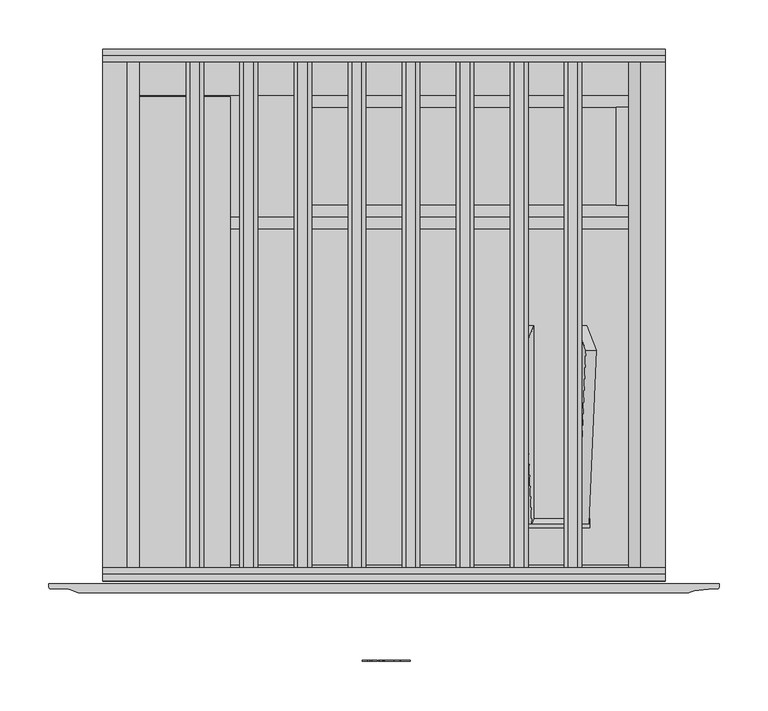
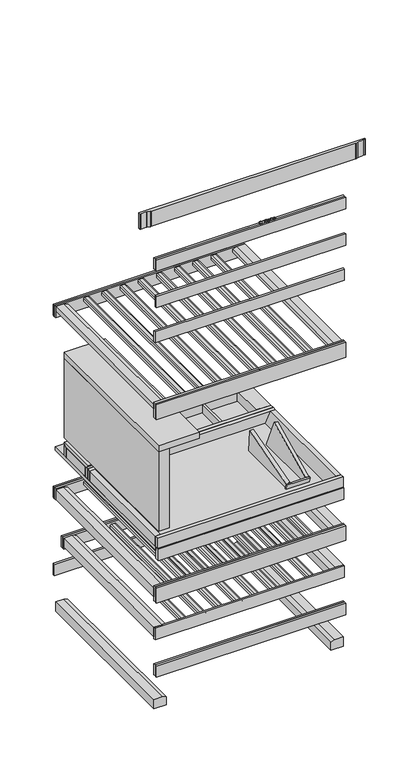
"""IFC4 building model written with IfcOpenShell, lengths in millimetres: proxy geometry, 12588220_CN_KWT4999F_OBSW : 39499962_CN_12588220_KWT4999F_OBSW."""

from ifc_helpers import new_model, si_unit, point, frame, frame_2d, origin, place, context, project, spatial, polyline, circle_curve, ellipse_curve, trimmed, segment, composite_curve, outline, extrude, source, transform, mapped, element, save
from ifc_brep_helpers import plane_surface, cylinder_surface, revolved_surface, extruded_surface, advanced_brep


def specialty_equipment_c9b6d5f7(model_context):
    return source(origin(), model_context, "Body", "SolidModel", [
        advanced_brep(
        [(21.288016, -779.5, 1910.896), (21.288016, -779.5, 1911.704), (26.640016, -779.5, 1911.704), (17.328016, -779.5, 1911.704), (19.528016, -779.5, 1909.0), (26.504016, -779.5, 1910.896), (24.088016, -779.5, 1910.896), (22.184016, -779.5, 1910.0), (21.288016, -779.5, 1912.728), (21.288016, -779.5, 1913.6), (22.656016, -779.5, 1913.6), (22.656016, -779.5, 1912.728), (21.288016, -778.5, 1910.896), (22.184016, -778.5, 1910.0), (24.088016, -778.5, 1910.896), (26.504016, -778.5, 1910.896), (19.528016, -778.5, 1909.0), (17.328016, -778.5, 1911.704), (26.640016, -778.5, 1911.704), (21.288016, -778.5, 1911.704), (21.288016, -778.5, 1912.728), (22.656016, -778.5, 1912.728), (22.656016, -778.5, 1913.6), (21.288016, -778.5, 1913.6)],
        [
            (0, 1),
            (1, 2),
            (2, 3, ellipse_curve(frame((21.984016, -779.5, 1911.704), z_axis=(0.0, -1.0, 0.0), x_axis=(-1.0, 0.0, 0.0)), 4.656, 3.848)),
            (3, 4, circle_curve(frame((20.4240596, -779.5, 1911.976), z_axis=(0.0, -1.0, 0.0), x_axis=(0.0, 0.0, -1.0)), 3.1079688)),
            (4, 5, circle_curve(frame((21.8908096, -779.5, 1914.088), z_axis=(0.0, -1.0, 0.0), x_axis=(0.0, 0.0, -1.0)), 5.6098607)),
            (5, 6),
            (6, 7, circle_curve(frame((22.5750748, -779.5, 1911.64), z_axis=(0.0, 1.0, 0.0), x_axis=(0.0, 0.0, -1.0)), 1.6859795)),
            (7, 0, circle_curve(frame((22.184016, -779.5, 1910.896), z_axis=(0.0, 1.0, 0.0), x_axis=(0.0, 0.0, -1.0)), 0.896)),
            (8, 9),
            (9, 10, circle_curve(frame((21.972016, -779.5, 1913.6), z_axis=(0.0, 1.0, 0.0), x_axis=(0.0, 0.0, -1.0)), 0.684)),
            (10, 11),
            (11, 8),
            (12, 13, circle_curve(frame((22.184016, -778.5, 1910.896), z_axis=(0.0, -1.0, 0.0), x_axis=(0.0, 0.0, -1.0)), 0.896)),
            (13, 14, circle_curve(frame((22.5750748, -778.5, 1911.64), z_axis=(0.0, -1.0, 0.0), x_axis=(0.0, 0.0, -1.0)), 1.6859795)),
            (14, 15),
            (15, 16, circle_curve(frame((21.8908096, -778.5, 1914.088), z_axis=(0.0, 1.0, 0.0), x_axis=(0.0, 0.0, -1.0)), 5.6098607)),
            (16, 17, circle_curve(frame((20.4240596, -778.5, 1911.976), z_axis=(0.0, 1.0, 0.0), x_axis=(0.0, 0.0, -1.0)), 3.1079688)),
            (17, 18, ellipse_curve(frame((21.984016, -778.5, 1911.704), z_axis=(0.0, 1.0, 0.0), x_axis=(-1.0, 0.0, 0.0)), 4.656, 3.848)),
            (18, 19),
            (19, 12),
            (20, 21),
            (21, 22),
            (22, 23, circle_curve(frame((21.972016, -778.5, 1913.6), z_axis=(0.0, -1.0, 0.0), x_axis=(0.0, 0.0, -1.0)), 0.684)),
            (23, 20),
            (0, 12),
            (19, 1),
            (18, 2),
            (5, 15),
            (14, 6),
            (17, 3),
            (13, 7),
            (16, 4),
            (8, 20),
            (23, 9),
            (22, 10),
            (21, 11),
        ],
        [
            plane_surface(frame((21.288016, -779.5, 1911.704), z_axis=(0.0, -1.0, 0.0), x_axis=(0.0, 0.0, 1.0))),
            plane_surface(frame((21.288016, -778.5, 1911.704), z_axis=(0.0, 1.0, 0.0), x_axis=(0.0, 0.0, -1.0))),
            plane_surface(frame((21.288016, -779.5, 1910.896), z_axis=(1.0, 0.0, 0.0), x_axis=(0.0, 1.0, 0.0))),
            plane_surface(frame((21.288016, -779.5, 1911.704), z_axis=(0.0, 0.0, -1.0), x_axis=(0.0, 1.0, 0.0))),
            plane_surface(frame((26.504016, -779.5, 1910.896), z_axis=(0.0, 0.0, 1.0), x_axis=(0.0, 1.0, 0.0))),
            extruded_surface(trimmed(ellipse_curve(frame((21.984016, -777.5, 1911.704), z_axis=(0.0, -1.0, 0.0), x_axis=(-1.0, 0.0, 0.0)), 4.656, 3.848), [point((26.640016, -777.5, 1911.704))], [point((17.328016, -777.5, 1911.704))], True, "CARTESIAN"), (0.0, -1.0, 0.0), 1.0),
            revolved_surface(polyline([(22.5750748, -778.5, 1909.9540205), (22.5750748, -779.5, 1909.9540205)]), (22.5750748, -778.5, 1911.64), (0.0, 1.0, 0.0)),
            revolved_surface(polyline([(22.184016, -778.5, 1910.0), (22.184016, -779.5, 1910.0)]), (22.184016, -778.5, 1910.896), (0.0, 1.0, 0.0)),
            cylinder_surface(frame((20.4240596, -778.5, 1911.976), z_axis=(0.0, -1.0, 0.0), x_axis=(0.0, 0.0, -1.0)), 3.1079688),
            cylinder_surface(frame((21.8908096, -778.5, 1914.088), z_axis=(0.0, -1.0, 0.0), x_axis=(0.0, 0.0, -1.0)), 5.6098607),
            plane_surface(frame((21.288016, -779.5, 1912.728), z_axis=(1.0, 0.0, 0.0), x_axis=(0.0, 1.0, 0.0))),
            revolved_surface(polyline([(21.972016, -778.5, 1912.916), (21.972016, -779.5, 1912.916)]), (21.972016, -778.5, 1913.6), (0.0, 1.0, 0.0)),
            plane_surface(frame((22.656016, -779.5, 1913.6), z_axis=(-1.0, 0.0, 0.0), x_axis=(0.0, 1.0, 0.0))),
            plane_surface(frame((22.656016, -779.5, 1912.728), z_axis=(0.0, 0.0, 1.0), x_axis=(0.0, 1.0, 0.0))),
        ],
        [
            (0, [[1, 2, 3, 4, 5, 6, 7, 8], [9, 10, 11, 12]]),
            (1, [[13, 14, 15, 16, 17, 18, 19, 20], [21, 22, 23, 24]]),
            (2, [[-1, 25, -20, 26]]),
            (3, [[-2, -26, -19, 27]]),
            (4, [[-6, 28, -15, 29]]),
            (5, [[-3, -27, -18, 30]]),
            (6, [[-7, -29, -14, 31]]),
            (7, [[-8, -31, -13, -25]]),
            (8, [[-4, -30, -17, 32]]),
            (9, [[-5, -32, -16, -28]]),
            (10, [[-9, 33, -24, 34]]),
            (11, [[-10, -34, -23, 35]]),
            (12, [[-11, -35, -22, 36]]),
            (13, [[-12, -36, -21, -33]]),
        ],
    ),
        advanced_brep(
        [(4.592016, -779.5, 1910.896), (4.592016, -779.5, 1911.704), (9.944016, -779.5, 1911.704), (0.632016, -779.5, 1911.704), (2.832016, -779.5, 1909.0), (9.808016, -779.5, 1910.896), (7.392016, -779.5, 1910.896), (5.488016, -779.5, 1910.0), (4.592016, -779.5, 1912.728), (4.592016, -779.5, 1913.6), (5.960016, -779.5, 1913.6), (5.960016, -779.5, 1912.728), (4.592016, -778.5, 1910.896), (5.488016, -778.5, 1910.0), (7.392016, -778.5, 1910.896), (9.808016, -778.5, 1910.896), (2.832016, -778.5, 1909.0), (0.632016, -778.5, 1911.704), (9.944016, -778.5, 1911.704), (4.592016, -778.5, 1911.704), (4.592016, -778.5, 1912.728), (5.960016, -778.5, 1912.728), (5.960016, -778.5, 1913.6), (4.592016, -778.5, 1913.6)],
        [
            (0, 1),
            (1, 2),
            (2, 3, ellipse_curve(frame((5.288016, -779.5, 1911.704), z_axis=(0.0, -1.0, 0.0), x_axis=(-1.0, 0.0, 0.0)), 4.656, 3.848)),
            (3, 4, circle_curve(frame((3.7280596, -779.5, 1911.976), z_axis=(0.0, -1.0, 0.0), x_axis=(0.0, 0.0, -1.0)), 3.1079688)),
            (4, 5, circle_curve(frame((5.1948096, -779.5, 1914.088), z_axis=(0.0, -1.0, 0.0), x_axis=(0.0, 0.0, -1.0)), 5.6098607)),
            (5, 6),
            (6, 7, circle_curve(frame((5.8790748, -779.5, 1911.64), z_axis=(0.0, 1.0, 0.0), x_axis=(0.0, 0.0, -1.0)), 1.6859795)),
            (7, 0, circle_curve(frame((5.488016, -779.5, 1910.896), z_axis=(0.0, 1.0, 0.0), x_axis=(0.0, 0.0, -1.0)), 0.896)),
            (8, 9),
            (9, 10, circle_curve(frame((5.276016, -779.5, 1913.6), z_axis=(0.0, 1.0, 0.0), x_axis=(0.0, 0.0, -1.0)), 0.684)),
            (10, 11),
            (11, 8),
            (12, 13, circle_curve(frame((5.488016, -778.5, 1910.896), z_axis=(0.0, -1.0, 0.0), x_axis=(0.0, 0.0, -1.0)), 0.896)),
            (13, 14, circle_curve(frame((5.8790748, -778.5, 1911.64), z_axis=(0.0, -1.0, 0.0), x_axis=(0.0, 0.0, -1.0)), 1.6859795)),
            (14, 15),
            (15, 16, circle_curve(frame((5.1948096, -778.5, 1914.088), z_axis=(0.0, 1.0, 0.0), x_axis=(0.0, 0.0, -1.0)), 5.6098607)),
            (16, 17, circle_curve(frame((3.7280596, -778.5, 1911.976), z_axis=(0.0, 1.0, 0.0), x_axis=(0.0, 0.0, -1.0)), 3.1079688)),
            (17, 18, ellipse_curve(frame((5.288016, -778.5, 1911.704), z_axis=(0.0, 1.0, 0.0), x_axis=(-1.0, 0.0, 0.0)), 4.656, 3.848)),
            (18, 19),
            (19, 12),
            (20, 21),
            (21, 22),
            (22, 23, circle_curve(frame((5.276016, -778.5, 1913.6), z_axis=(0.0, -1.0, 0.0), x_axis=(0.0, 0.0, -1.0)), 0.684)),
            (23, 20),
            (0, 12),
            (19, 1),
            (18, 2),
            (5, 15),
            (14, 6),
            (17, 3),
            (13, 7),
            (16, 4),
            (8, 20),
            (23, 9),
            (22, 10),
            (21, 11),
        ],
        [
            plane_surface(frame((4.592016, -779.5, 1911.704), z_axis=(0.0, -1.0, 0.0), x_axis=(0.0, 0.0, 1.0))),
            plane_surface(frame((4.592016, -778.5, 1911.704), z_axis=(0.0, 1.0, 0.0), x_axis=(0.0, 0.0, -1.0))),
            plane_surface(frame((4.592016, -779.5, 1910.896), z_axis=(1.0, 0.0, 0.0), x_axis=(0.0, 1.0, 0.0))),
            plane_surface(frame((4.592016, -779.5, 1911.704), z_axis=(0.0, 0.0, -1.0), x_axis=(0.0, 1.0, 0.0))),
            plane_surface(frame((9.808016, -779.5, 1910.896), z_axis=(0.0, 0.0, 1.0), x_axis=(0.0, 1.0, 0.0))),
            extruded_surface(trimmed(ellipse_curve(frame((5.288016, -777.5, 1911.704), z_axis=(0.0, -1.0, 0.0), x_axis=(-1.0, 0.0, 0.0)), 4.656, 3.848), [point((9.944016, -777.5, 1911.704))], [point((0.632016, -777.5, 1911.704))], True, "CARTESIAN"), (0.0, -1.0, 0.0), 1.0),
            revolved_surface(polyline([(5.8790748, -778.5, 1909.9540205), (5.8790748, -779.5, 1909.9540205)]), (5.8790748, -778.5, 1911.64), (0.0, 1.0, 0.0)),
            revolved_surface(polyline([(5.488016, -778.5, 1910.0), (5.488016, -779.5, 1910.0)]), (5.488016, -778.5, 1910.896), (0.0, 1.0, 0.0)),
            cylinder_surface(frame((3.7280596, -778.5, 1911.976), z_axis=(0.0, -1.0, 0.0), x_axis=(0.0, 0.0, -1.0)), 3.1079688),
            cylinder_surface(frame((5.1948096, -778.5, 1914.088), z_axis=(0.0, -1.0, 0.0), x_axis=(0.0, 0.0, -1.0)), 5.6098607),
            plane_surface(frame((4.592016, -779.5, 1912.728), z_axis=(1.0, 0.0, 0.0), x_axis=(0.0, 1.0, 0.0))),
            revolved_surface(polyline([(5.276016, -778.5, 1912.916), (5.276016, -779.5, 1912.916)]), (5.276016, -778.5, 1913.6), (0.0, 1.0, 0.0)),
            plane_surface(frame((5.960016, -779.5, 1913.6), z_axis=(-1.0, 0.0, 0.0), x_axis=(0.0, 1.0, 0.0))),
            plane_surface(frame((5.960016, -779.5, 1912.728), z_axis=(0.0, 0.0, 1.0), x_axis=(0.0, 1.0, 0.0))),
        ],
        [
            (0, [[1, 2, 3, 4, 5, 6, 7, 8], [9, 10, 11, 12]]),
            (1, [[13, 14, 15, 16, 17, 18, 19, 20], [21, 22, 23, 24]]),
            (2, [[-1, 25, -20, 26]]),
            (3, [[-2, -26, -19, 27]]),
            (4, [[-6, 28, -15, 29]]),
            (5, [[-3, -27, -18, 30]]),
            (6, [[-7, -29, -14, 31]]),
            (7, [[-8, -31, -13, -25]]),
            (8, [[-4, -30, -17, 32]]),
            (9, [[-5, -32, -16, -28]]),
            (10, [[-9, 33, -24, 34]]),
            (11, [[-10, -34, -23, 35]]),
            (12, [[-11, -35, -22, 36]]),
            (13, [[-12, -36, -21, -33]]),
        ],
    ),
        extrude(outline(polyline([(1916.528, -4.151984), (1915.232, -3.543984), (1916.496, -0.831984), (1917.792, -1.431984), (1916.528, -4.151984)])), frame((0.0, -779.5, 0.0), z_axis=(0.0, 1.0, 0.0), x_axis=(0.0, 0.0, 1.0)), (0.0, 0.0, 1.0), 1.0),
        extrude(outline(polyline([(1915.056, -6.127984), (1913.624, -6.127984), (1913.624, -5.175984), (1910.344, -5.175984), (1910.344, -6.127984), (1909.0, -6.127984), (1909.0, 0.184016), (1910.344, 0.184016), (1910.344, -0.743984), (1915.056, -0.743984), (1915.056, -6.127984)])), frame((0.0, -779.5, 0.0), z_axis=(0.0, 1.0, 0.0), x_axis=(0.0, 0.0, 1.0)), (0.0, 0.0, 1.0), 1.0),
        extrude(outline(polyline([(1915.696, 10.392016), (1915.696, 11.352016), (1910.344, 11.352016), (1910.344, 10.392016), (1909.0, 10.392016), (1909.0, 16.880016), (1910.344, 16.880016), (1910.344, 15.896016), (1917.0, 15.896016), (1917.0, 10.392016), (1915.696, 10.392016)])), frame((0.0, -779.5, 0.0), z_axis=(0.0, 1.0, 0.0), x_axis=(0.0, 0.0, 1.0)), (0.0, 0.0, 1.0), 1.0),
        extrude(outline(polyline([(1915.696, -22.071984), (1915.696, -21.103984), (1910.344, -21.103984), (1910.344, -22.071984), (1909.0, -22.071984), (1909.0, -18.551984), (1910.344, -18.551984), (1910.344, -19.511984), (1913.7471247, -19.511984), (1909.0, -15.935984), (1913.8152223, -12.343984), (1910.344, -12.343984), (1910.344, -13.327984), (1909.0, -13.327984), (1909.0, -6.943984), (1910.344, -6.943984), (1910.344, -7.959984), (1915.696, -7.959984), (1915.696, -6.943984), (1917.0, -6.943984), (1917.0, -11.815984), (1914.0, -14.151984), (1917.0, -16.495984), (1917.0, -22.071984), (1915.696, -22.071984)])), frame((0.0, -779.5, 0.0), z_axis=(0.0, 1.0, 0.0), x_axis=(0.0, 0.0, 1.0)), (0.0, 0.0, 1.0), 1.0),
        extrude(outline(composite_curve([segment(polyline([(310.3303025, -709.4869385), (-310.3238209, -709.4869385)]), True, "CONTINUOUS"), segment(trimmed(circle_curve(frame_2d((-310.44591, -703.5630875)), 5.9251089), [point((-310.3238209, -709.4869385))], [point((-312.4708007, -709.1314566))], False, "CARTESIAN"), True, "CONTINUOUS"), segment(polyline([(-312.4708007, -709.1314566), (-321.5667859, -705.8237776)]), True, "CONTINUOUS"), segment(trimmed(circle_curve(frame_2d((-323.2756141, -710.5229876)), 5.0002667), [point((-321.5667859, -705.8237776))], [point((-323.2756141, -705.5227208))], True, "CARTESIAN"), True, "CONTINUOUS"), segment(polyline([(-323.2756141, -705.5227208), (-340.5040257, -705.5227208)]), True, "CONTINUOUS"), segment(trimmed(circle_curve(frame_2d((-340.5040257, -703.5174705)), 2.0052503), [point((-340.5040257, -705.5227208))], [point((-342.509276, -703.5174705))], False, "CARTESIAN"), True, "CONTINUOUS"), segment(polyline([(-342.509276, -703.5174705), (-342.509276, -700.0), (342.509276, -700.0), (342.509276, -703.5756553)]), True, "CONTINUOUS"), segment(trimmed(circle_curve(frame_2d((340.5363621, -703.5756553)), 1.9729139), [point((342.509276, -703.5756553))], [point((340.3912088, -705.5432223))], False, "CARTESIAN"), True, "CONTINUOUS"), segment(polyline([(340.3912088, -705.5432223), (335.9802856, -705.2942743), (317.1795756, -707.380628), (312.3907072, -709.1236335)]), True, "CONTINUOUS"), segment(trimmed(circle_curve(frame_2d((310.3303025, -703.4627182)), 6.0242203), [point((312.3907072, -709.1236335))], [point((310.3303025, -709.4869385))], False, "CARTESIAN"), True, "CONTINUOUS")], self_intersect=False)), frame((0.0, 0.0, 1960.9923609), z_axis=(0.0, 0.0, 1.0), x_axis=(1.0, 0.0, 0.0)), (0.0, 0.0, 1.0), 49.0076391),
        extrude(outline(polyline([(287.5, -689.7655853), (-287.5, -689.7655853), (-287.5, -683.7655853), (287.5, -683.7655853), (287.5, -689.7655853)])), frame((0.0, 0.0, 1801.7318744), z_axis=(0.0, 0.0, 1.0), x_axis=(1.0, 0.0, 0.0)), (0.0, 0.0, 1.0), 35.7700323),
        extrude(outline(polyline([(621.0, -250.0), (646.4686279, -250.0), (651.0, -262.4499969), (651.0, -287.5), (621.0, -287.5), (621.0, -250.0)])), frame((0.0, -683.7655853, 0.0), z_axis=(0.0, 1.0, 0.0), x_axis=(0.0, 0.0, 1.0)), (0.0, 0.0, 1.0), 472.2980494),
        extrude(outline(polyline([(621.0, 250.0), (621.0, 287.3000031), (651.0, 287.3000031), (651.0, 262.4499969), (646.4686279, 250.0), (621.0, 250.0)])), frame((0.0, -683.7655853, 0.0), z_axis=(0.0, 1.0, 0.0), x_axis=(0.0, 0.0, 1.0)), (0.0, 0.0, 1.0), 472.2980494),
        extrude(outline(polyline([(-157.2501068, -697.5999935), (-281.2500916, -697.5999935), (-281.2500916, -202.0999745), (-157.2501068, -202.0999745), (-157.2501068, -697.5999935)])), frame((0.0, 0.0, 1220.1179892), z_axis=(0.0, 0.0, 1.0), x_axis=(1.0, 0.0, 0.0)), (0.0, 0.0, 1.0), 20.0),
        extrude(outline(polyline([(939.9999987, -266.25), (939.9999987, -281.25), (907.4999986, -281.25), (907.4999986, -251.0950011), (939.9999987, -266.25)])), frame((0.0, -681.0000048, 0.0), z_axis=(0.0, 1.0, 0.0), x_axis=(0.0, 0.0, 1.0)), (0.0, 0.0, 1.0), 344.0),
        extrude(outline(polyline([(939.9999987, 266.25), (907.4999986, 251.0950011), (907.4999986, 281.25), (939.9999987, 281.25), (939.9999987, 266.25)])), frame((0.0, -681.0000048, 0.0), z_axis=(0.0, 1.0, 0.0), x_axis=(0.0, 0.0, 1.0)), (0.0, 0.0, 1.0), 344.0),
        extrude(outline(composite_curve([segment(polyline([(772.8, -147.25), (764.8, -147.25), (764.8, -129.25), (772.8, -129.25)]), True, "CONTINUOUS"), segment(trimmed(circle_curve(frame_2d((772.8, -133.25)), 4.0), [point((772.8, -129.25))], [point((776.8, -133.25))], False, "CARTESIAN"), True, "CONTINUOUS"), segment(polyline([(776.8, -133.25), (776.8, -143.25)]), True, "CONTINUOUS"), segment(trimmed(circle_curve(frame_2d((772.8, -143.25)), 4.0), [point((776.8, -143.25))], [point((772.8, -147.25))], False, "CARTESIAN"), True, "CONTINUOUS")], self_intersect=False)), frame((0.0, -683.7655853, 0.0), z_axis=(0.0, 1.0, 0.0), x_axis=(0.0, 0.0, 1.0)), (0.0, 0.0, 1.0), 517.2655853),
        extrude(outline(composite_curve([segment(polyline([(772.8, -91.9499969), (764.8, -91.9499969), (764.8, -73.9499969), (772.8, -73.9499969)]), True, "CONTINUOUS"), segment(trimmed(circle_curve(frame_2d((772.8, -77.9499969)), 4.0), [point((772.8, -73.9499969))], [point((776.8, -77.9499969))], False, "CARTESIAN"), True, "CONTINUOUS"), segment(polyline([(776.8, -77.9499969), (776.8, -87.9499969)]), True, "CONTINUOUS"), segment(trimmed(circle_curve(frame_2d((772.8, -87.9499969)), 4.0), [point((776.8, -87.9499969))], [point((772.8, -91.9499969))], False, "CARTESIAN"), True, "CONTINUOUS")], self_intersect=False)), frame((0.0, -683.7655853, 0.0), z_axis=(0.0, 1.0, 0.0), x_axis=(0.0, 0.0, 1.0)), (0.0, 0.0, 1.0), 517.2655853),
        extrude(outline(composite_curve([segment(trimmed(circle_curve(frame_2d((772.8, -22.6499996)), 4.0), [point((772.8, -18.6499996))], [point((776.8, -22.6499996))], False, "CARTESIAN"), True, "CONTINUOUS"), segment(polyline([(776.8, -22.6499996), (776.8, -32.6499996)]), True, "CONTINUOUS"), segment(trimmed(circle_curve(frame_2d((772.8, -32.6499996)), 4.0), [point((776.8, -32.6499996))], [point((772.8, -36.6499996))], False, "CARTESIAN"), True, "CONTINUOUS"), segment(polyline([(772.8, -36.6499996), (764.8, -36.6499996), (764.8, -18.6499996), (772.8, -18.6499996)]), True, "CONTINUOUS")], self_intersect=False)), frame((0.0, -683.7655853, 0.0), z_axis=(0.0, 1.0, 0.0), x_axis=(0.0, 0.0, 1.0)), (0.0, 0.0, 1.0), 517.2655853),
        extrude(outline(composite_curve([segment(trimmed(circle_curve(frame_2d((772.8, 143.25)), 4.0), [point((772.8, 147.25))], [point((776.8, 143.25))], False, "CARTESIAN"), True, "CONTINUOUS"), segment(polyline([(776.8, 143.25), (776.8, 133.25)]), True, "CONTINUOUS"), segment(trimmed(circle_curve(frame_2d((772.8, 133.25)), 4.0), [point((776.8, 133.25))], [point((772.8, 129.25))], False, "CARTESIAN"), True, "CONTINUOUS"), segment(polyline([(772.8, 129.25), (764.8, 129.25), (764.8, 147.25), (772.8, 147.25)]), True, "CONTINUOUS")], self_intersect=False)), frame((0.0, -683.7655853, 0.0), z_axis=(0.0, 1.0, 0.0), x_axis=(0.0, 0.0, 1.0)), (0.0, 0.0, 1.0), 517.2655853),
        extrude(outline(composite_curve([segment(trimmed(circle_curve(frame_2d((772.8, 87.9499969)), 4.0), [point((772.8, 91.9499969))], [point((776.8, 87.9499969))], False, "CARTESIAN"), True, "CONTINUOUS"), segment(polyline([(776.8, 87.9499969), (776.8, 77.9499969)]), True, "CONTINUOUS"), segment(trimmed(circle_curve(frame_2d((772.8, 77.9499969)), 4.0), [point((776.8, 77.9499969))], [point((772.8, 73.9499969))], False, "CARTESIAN"), True, "CONTINUOUS"), segment(polyline([(772.8, 73.9499969), (764.8, 73.9499969), (764.8, 91.9499969), (772.8, 91.9499969)]), True, "CONTINUOUS")], self_intersect=False)), frame((0.0, -683.7655853, 0.0), z_axis=(0.0, 1.0, 0.0), x_axis=(0.0, 0.0, 1.0)), (0.0, 0.0, 1.0), 517.2655853),
        extrude(outline(composite_curve([segment(polyline([(772.8, 18.6499996), (764.8, 18.6499996), (764.8, 36.6499996), (772.8, 36.6499996)]), True, "CONTINUOUS"), segment(trimmed(circle_curve(frame_2d((772.8, 32.6499996)), 4.0), [point((772.8, 36.6499996))], [point((776.8, 32.6499996))], False, "CARTESIAN"), True, "CONTINUOUS"), segment(polyline([(776.8, 32.6499996), (776.8, 22.6499996)]), True, "CONTINUOUS"), segment(trimmed(circle_curve(frame_2d((772.8, 22.6499996)), 4.0), [point((776.8, 22.6499996))], [point((772.8, 18.6499996))], False, "CARTESIAN"), True, "CONTINUOUS")], self_intersect=False)), frame((0.0, -683.7655853, 0.0), z_axis=(0.0, 1.0, 0.0), x_axis=(0.0, 0.0, 1.0)), (0.0, 0.0, 1.0), 517.2655853),
        extrude(outline(composite_curve([segment(trimmed(circle_curve(frame_2d((772.8, 198.25)), 4.0), [point((772.8, 202.25))], [point((776.8, 198.25))], False, "CARTESIAN"), True, "CONTINUOUS"), segment(polyline([(776.8, 198.25), (776.8, 188.25)]), True, "CONTINUOUS"), segment(trimmed(circle_curve(frame_2d((772.8, 188.25)), 4.0), [point((776.8, 188.25))], [point((772.8, 184.25))], False, "CARTESIAN"), True, "CONTINUOUS"), segment(polyline([(772.8, 184.25), (764.8, 184.25), (764.8, 202.25), (772.8, 202.25)]), True, "CONTINUOUS")], self_intersect=False)), frame((0.0, -683.7655853, 0.0), z_axis=(0.0, 1.0, 0.0), x_axis=(0.0, 0.0, 1.0)), (0.0, 0.0, 1.0), 517.2655853),
        extrude(outline(composite_curve([segment(polyline([(772.8, -202.25), (764.8, -202.25), (764.8, -184.25), (772.8, -184.25)]), True, "CONTINUOUS"), segment(trimmed(circle_curve(frame_2d((772.8, -188.25)), 4.0), [point((772.8, -184.25))], [point((776.8, -188.25))], False, "CARTESIAN"), True, "CONTINUOUS"), segment(polyline([(776.8, -188.25), (776.8, -198.25)]), True, "CONTINUOUS"), segment(trimmed(circle_curve(frame_2d((772.8, -198.25)), 4.0), [point((776.8, -198.25))], [point((772.8, -202.25))], False, "CARTESIAN"), True, "CONTINUOUS")], self_intersect=False)), frame((0.0, -683.7655853, 0.0), z_axis=(0.0, 1.0, 0.0), x_axis=(0.0, 0.0, 1.0)), (0.0, 0.0, 1.0), 517.2655853),
        extrude(outline(polyline([(287.5, -166.5), (-287.5, -166.5), (-287.5, -160.5), (287.5, -160.5), (287.5, -166.5)])), frame((0.0, 0.0, 746.2999344), z_axis=(0.0, 0.0, 1.0), x_axis=(1.0, 0.0, 0.0)), (0.0, 0.0, 1.0), 36.2681256),
        extrude(outline(polyline([(287.5, -160.5), (-287.5, -160.5), (-287.5, -153.5), (287.5, -153.5), (287.5, -160.5)])), frame((0.0, 0.0, 746.2999344), z_axis=(0.0, 0.0, 1.0), x_axis=(1.0, 0.0, 0.0)), (0.0, 0.0, 1.0), 36.2681256),
        extrude(outline(polyline([(748.6, -250.0), (774.0686279, -250.0), (778.6, -262.4499969), (778.6, -287.5), (748.6, -287.5), (748.6, -250.0)])), frame((0.0, -683.7655853, 0.0), z_axis=(0.0, 1.0, 0.0), x_axis=(0.0, 0.0, 1.0)), (0.0, 0.0, 1.0), 517.2655853),
        extrude(outline(polyline([(748.6, 250.0), (748.6, 287.3000031), (778.6, 287.3000031), (778.6, 262.4499969), (774.0686279, 250.0), (748.6, 250.0)])), frame((0.0, -683.7655853, 0.0), z_axis=(0.0, 1.0, 0.0), x_axis=(0.0, 0.0, 1.0)), (0.0, 0.0, 1.0), 517.2655853),
        extrude(outline(polyline([(287.5, -689.7655853), (-287.5, -689.7655853), (-287.5, -683.7655853), (287.5, -683.7655853), (287.5, -689.7655853)])), frame((0.0, 0.0, 736.8511194), z_axis=(0.0, 0.0, 1.0), x_axis=(1.0, 0.0, 0.0)), (0.0, 0.0, 1.0), 47.3999039),
        extrude(outline(polyline([(784.2510253, 287.5), (784.2510253, -287.5), (736.8511194, -287.5), (736.8512134, 287.5), (784.2510253, 287.5)])), frame((0.0, -697.1349254, 0.0), z_axis=(0.0, 1.0, 0.0), x_axis=(0.0, 0.0, 1.0)), (0.0, 0.0, 1.0), 7.36934),
        extrude(outline(polyline([(31.5, -212.9999922), (31.5, -313.0000175), (25.5, -313.0000175), (25.5, -212.9999922), (31.5, -212.9999922)])), frame((0.0, 0.0, 903.3015479), z_axis=(0.0, 0.0, 1.0), x_axis=(1.0, 0.0, 0.0)), (0.0, 0.0, 1.0), 33.0000706),
        extrude(outline(polyline([(137.5, -212.9999922), (137.5, -313.0000175), (131.5, -313.0000175), (131.5, -212.9999922), (137.5, -212.9999922)])), frame((0.0, 0.0, 906.9999282), z_axis=(0.0, 0.0, 1.0), x_axis=(1.0, 0.0, 0.0)), (0.0, 0.0, 1.0), 27.9999866),
        extrude(outline(polyline([(906.9999282, -281.25), (895.999864, -281.25), (895.999864, -257.5), (878.4998958, -257.5), (878.4998958, 257.5), (895.999864, 257.5), (895.999864, 281.25), (906.9999282, 281.25), (906.9999282, -281.25)])), frame((0.0, -683.7655853, 0.0), z_axis=(0.0, 1.0, 0.0), x_axis=(0.0, 0.0, 1.0)), (0.0, 0.0, 1.0), 528.9839425),
        extrude(outline(polyline([(0.0, 0.0), (86.9998382, 0.0), (30.745949, -189.1638444), (12.7865385, -189.163855), (0.0, 0.0)])), frame((132.3493975, -461.1214926, 999.4142588), z_axis=(0.992546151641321, 0.0, 0.12186934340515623), x_axis=(0.11681349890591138, 0.28504470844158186, -0.951369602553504)), (0.0, 0.0, 1.0), 10.771095),
        extrude(outline(polyline([(-189.5955158, 0.0), (0.0, 0.0), (1.2111926, -17.9185221), (-183.7281472, -86.8017616), (-189.5955158, 0.0)])), frame((209.1416267, -638.7930028, 933.58312), z_axis=(-0.9925461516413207, 0.0, 0.12186934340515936), x_axis=(-0.04253715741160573, -0.9371081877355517, -0.34643734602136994)), (0.0, 0.0, 1.0), 10.8403405),
        extrude(outline(polyline([(-633.6737577, 916.4000207), (-637.8468674, 916.4000207), (-642.5499878, 932.2150767), (-638.7930028, 933.614368), (-633.6737577, 916.4000207)])), frame((140.1009896, 0.0, 0.0), z_axis=(1.0, 0.0, 0.0), x_axis=(0.0, 1.0, 0.0)), (0.0, 0.0, 1.0), 70.3305097),
        extrude(outline(polyline([(-248.2501068, -697.5999935), (-281.2500916, -697.5999935), (-281.2500916, -202.0999745), (-248.2501068, -202.0999745), (-248.2501068, -697.5999935)])), frame((0.0, 0.0, 965.2499991), z_axis=(0.0, 0.0, 1.0), x_axis=(1.0, 0.0, 0.0)), (0.0, 0.0, 1.0), 254.8679901),
        extrude(outline(polyline([(-200.999997, 949.9918585), (-200.999997, 947.9866705), (-208.9866687, 939.9999987), (-317.0000687, 939.9999987), (-324.9999965, 947.9999265), (-324.9999965, 949.9918585), (-200.999997, 949.9918585)])), frame((-281.25, 0.0, 0.0), z_axis=(1.0, 0.0, 0.0), x_axis=(0.0, 1.0, 0.0)), (0.0, 0.0, 1.0), 206.75),
        extrude(outline(polyline([(-281.25, -313.0000175), (-281.25, -212.9999922), (-74.5, -212.9999922), (-74.5, -313.0000175), (-281.25, -313.0000175)])), frame((0.0, 0.0, 906.9999282), z_axis=(0.0, 0.0, 1.0), x_axis=(1.0, 0.0, 0.0)), (0.0, 0.0, 1.0), 33.0000706),
        extrude(outline(polyline([(281.25, -212.9999922), (281.25, -313.0000175), (237.5, -313.0000175), (237.5, -212.9999922), (281.25, -212.9999922)])), frame((0.0, 0.0, 906.9999282), z_axis=(0.0, 0.0, 1.0), x_axis=(1.0, 0.0, 0.0)), (0.0, 0.0, 1.0), 33.0000706),
        extrude(outline(polyline([(281.25, -212.9999922), (-281.25, -212.9999922), (-281.25, -200.9999985), (281.25, -200.9999985), (281.25, -212.9999922)])), frame((0.0, 0.0, 906.9999282), z_axis=(0.0, 0.0, 1.0), x_axis=(1.0, 0.0, 0.0)), (0.0, 0.0, 1.0), 33.0000706),
        extrude(outline(polyline([(281.25, -325.0000112), (-281.25, -325.0000112), (-281.25, -313.0000175), (281.25, -313.0000175), (281.25, -325.0000112)])), frame((0.0, 0.0, 906.9999282), z_axis=(0.0, 0.0, 1.0), x_axis=(1.0, 0.0, 0.0)), (0.0, 0.0, 1.0), 33.0000706),
        extrude(outline(polyline([(281.25, -337.0000048), (-281.25, -337.0000048), (-281.25, -325.0000112), (281.25, -325.0000112), (281.25, -337.0000048)])), frame((0.0, 0.0, 906.9999282), z_axis=(0.0, 0.0, 1.0), x_axis=(1.0, 0.0, 0.0)), (0.0, 0.0, 1.0), 33.0000706),
        extrude(outline(polyline([(281.25, -697.1349254), (-281.75, -697.1349254), (-281.75, -683.7655853), (281.25, -683.7655853), (281.25, -697.1349254)])), frame((0.0, 0.0, 871.4999975), z_axis=(0.0, 0.0, 1.0), x_axis=(1.0, 0.0, 0.0)), (0.0, 0.0, 1.0), 36.0000012),
        extrude(outline(polyline([(281.25, -692.9999985), (-281.25, -692.9999985), (-281.25, -681.0000048), (281.25, -681.0000048), (281.25, -692.9999985)])), frame((0.0, 0.0, 907.4999986), z_axis=(0.0, 0.0, 1.0), x_axis=(1.0, 0.0, 0.0)), (0.0, 0.0, 1.0), 32.5000001),
        extrude(outline(composite_curve([segment(polyline([(1361.2318744, -147.25), (1353.2318744, -147.25), (1353.2318744, -129.25), (1361.2318744, -129.25)]), True, "CONTINUOUS"), segment(trimmed(circle_curve(frame_2d((1361.2318744, -133.25)), 4.0), [point((1361.2318744, -129.25))], [point((1365.2318744, -133.25))], False, "CARTESIAN"), True, "CONTINUOUS"), segment(polyline([(1365.2318744, -133.25), (1365.2318744, -143.25)]), True, "CONTINUOUS"), segment(trimmed(circle_curve(frame_2d((1361.2318744, -143.25)), 4.0), [point((1365.2318744, -143.25))], [point((1361.2318744, -147.25))], False, "CARTESIAN"), True, "CONTINUOUS")], self_intersect=False)), frame((0.0, -683.7655853, 0.0), z_axis=(0.0, 1.0, 0.0), x_axis=(0.0, 0.0, 1.0)), (0.0, 0.0, 1.0), 517.2655853),
        extrude(outline(composite_curve([segment(polyline([(1361.2318744, -91.9499969), (1353.2318744, -91.9499969), (1353.2318744, -73.9499969), (1361.2318744, -73.9499969)]), True, "CONTINUOUS"), segment(trimmed(circle_curve(frame_2d((1361.2318744, -77.9499969)), 4.0), [point((1361.2318744, -73.9499969))], [point((1365.2318744, -77.9499969))], False, "CARTESIAN"), True, "CONTINUOUS"), segment(polyline([(1365.2318744, -77.9499969), (1365.2318744, -87.9499969)]), True, "CONTINUOUS"), segment(trimmed(circle_curve(frame_2d((1361.2318744, -87.9499969)), 4.0), [point((1365.2318744, -87.9499969))], [point((1361.2318744, -91.9499969))], False, "CARTESIAN"), True, "CONTINUOUS")], self_intersect=False)), frame((0.0, -683.7655853, 0.0), z_axis=(0.0, 1.0, 0.0), x_axis=(0.0, 0.0, 1.0)), (0.0, 0.0, 1.0), 517.2655853),
        extrude(outline(composite_curve([segment(trimmed(circle_curve(frame_2d((1361.2318744, -22.6499996)), 4.0), [point((1361.2318744, -18.6499996))], [point((1365.2318744, -22.6499996))], False, "CARTESIAN"), True, "CONTINUOUS"), segment(polyline([(1365.2318744, -22.6499996), (1365.2318744, -32.6499996)]), True, "CONTINUOUS"), segment(trimmed(circle_curve(frame_2d((1361.2318744, -32.6499996)), 4.0), [point((1365.2318744, -32.6499996))], [point((1361.2318744, -36.6499996))], False, "CARTESIAN"), True, "CONTINUOUS"), segment(polyline([(1361.2318744, -36.6499996), (1353.2318744, -36.6499996), (1353.2318744, -18.6499996), (1361.2318744, -18.6499996)]), True, "CONTINUOUS")], self_intersect=False)), frame((0.0, -683.7655853, 0.0), z_axis=(0.0, 1.0, 0.0), x_axis=(0.0, 0.0, 1.0)), (0.0, 0.0, 1.0), 517.2655853),
        extrude(outline(composite_curve([segment(trimmed(circle_curve(frame_2d((1361.2318744, 143.25)), 4.0), [point((1361.2318744, 147.25))], [point((1365.2318744, 143.25))], False, "CARTESIAN"), True, "CONTINUOUS"), segment(polyline([(1365.2318744, 143.25), (1365.2318744, 133.25)]), True, "CONTINUOUS"), segment(trimmed(circle_curve(frame_2d((1361.2318744, 133.25)), 4.0), [point((1365.2318744, 133.25))], [point((1361.2318744, 129.25))], False, "CARTESIAN"), True, "CONTINUOUS"), segment(polyline([(1361.2318744, 129.25), (1353.2318744, 129.25), (1353.2318744, 147.25), (1361.2318744, 147.25)]), True, "CONTINUOUS")], self_intersect=False)), frame((0.0, -683.7655853, 0.0), z_axis=(0.0, 1.0, 0.0), x_axis=(0.0, 0.0, 1.0)), (0.0, 0.0, 1.0), 517.2655853),
        extrude(outline(composite_curve([segment(trimmed(circle_curve(frame_2d((1361.2318744, 87.9499969)), 4.0), [point((1361.2318744, 91.9499969))], [point((1365.2318744, 87.9499969))], False, "CARTESIAN"), True, "CONTINUOUS"), segment(polyline([(1365.2318744, 87.9499969), (1365.2318744, 77.9499969)]), True, "CONTINUOUS"), segment(trimmed(circle_curve(frame_2d((1361.2318744, 77.9499969)), 4.0), [point((1365.2318744, 77.9499969))], [point((1361.2318744, 73.9499969))], False, "CARTESIAN"), True, "CONTINUOUS"), segment(polyline([(1361.2318744, 73.9499969), (1353.2318744, 73.9499969), (1353.2318744, 91.9499969), (1361.2318744, 91.9499969)]), True, "CONTINUOUS")], self_intersect=False)), frame((0.0, -683.7655853, 0.0), z_axis=(0.0, 1.0, 0.0), x_axis=(0.0, 0.0, 1.0)), (0.0, 0.0, 1.0), 517.2655853),
        extrude(outline(composite_curve([segment(polyline([(1361.2318744, 18.6499996), (1353.2318744, 18.6499996), (1353.2318744, 36.6499996), (1361.2318744, 36.6499996)]), True, "CONTINUOUS"), segment(trimmed(circle_curve(frame_2d((1361.2318744, 32.6499996)), 4.0), [point((1361.2318744, 36.6499996))], [point((1365.2318744, 32.6499996))], False, "CARTESIAN"), True, "CONTINUOUS"), segment(polyline([(1365.2318744, 32.6499996), (1365.2318744, 22.6499996)]), True, "CONTINUOUS"), segment(trimmed(circle_curve(frame_2d((1361.2318744, 22.6499996)), 4.0), [point((1365.2318744, 22.6499996))], [point((1361.2318744, 18.6499996))], False, "CARTESIAN"), True, "CONTINUOUS")], self_intersect=False)), frame((0.0, -683.7655853, 0.0), z_axis=(0.0, 1.0, 0.0), x_axis=(0.0, 0.0, 1.0)), (0.0, 0.0, 1.0), 517.2655853),
        extrude(outline(composite_curve([segment(trimmed(circle_curve(frame_2d((1361.2318744, 198.25)), 4.0), [point((1361.2318744, 202.25))], [point((1365.2318744, 198.25))], False, "CARTESIAN"), True, "CONTINUOUS"), segment(polyline([(1365.2318744, 198.25), (1365.2318744, 188.25)]), True, "CONTINUOUS"), segment(trimmed(circle_curve(frame_2d((1361.2318744, 188.25)), 4.0), [point((1365.2318744, 188.25))], [point((1361.2318744, 184.25))], False, "CARTESIAN"), True, "CONTINUOUS"), segment(polyline([(1361.2318744, 184.25), (1353.2318744, 184.25), (1353.2318744, 202.25), (1361.2318744, 202.25)]), True, "CONTINUOUS")], self_intersect=False)), frame((0.0, -683.7655853, 0.0), z_axis=(0.0, 1.0, 0.0), x_axis=(0.0, 0.0, 1.0)), (0.0, 0.0, 1.0), 517.2655853),
        extrude(outline(composite_curve([segment(polyline([(1361.2318744, -202.25), (1353.2318744, -202.25), (1353.2318744, -184.25), (1361.2318744, -184.25)]), True, "CONTINUOUS"), segment(trimmed(circle_curve(frame_2d((1361.2318744, -188.25)), 4.0), [point((1361.2318744, -184.25))], [point((1365.2318744, -188.25))], False, "CARTESIAN"), True, "CONTINUOUS"), segment(polyline([(1365.2318744, -188.25), (1365.2318744, -198.25)]), True, "CONTINUOUS"), segment(trimmed(circle_curve(frame_2d((1361.2318744, -198.25)), 4.0), [point((1365.2318744, -198.25))], [point((1361.2318744, -202.25))], False, "CARTESIAN"), True, "CONTINUOUS")], self_intersect=False)), frame((0.0, -683.7655853, 0.0), z_axis=(0.0, 1.0, 0.0), x_axis=(0.0, 0.0, 1.0)), (0.0, 0.0, 1.0), 517.2655853),
        extrude(outline(polyline([(287.5, -166.5), (-287.5, -166.5), (-287.5, -160.5), (287.5, -160.5), (287.5, -166.5)])), frame((0.0, 0.0, 1330.7318744), z_axis=(0.0, 0.0, 1.0), x_axis=(1.0, 0.0, 0.0)), (0.0, 0.0, 1.0), 36.2681256),
        extrude(outline(polyline([(287.5, -160.5), (-287.5, -160.5), (-287.5, -153.5), (287.5, -153.5), (287.5, -160.5)])), frame((0.0, 0.0, 1330.7318744), z_axis=(0.0, 0.0, 1.0), x_axis=(1.0, 0.0, 0.0)), (0.0, 0.0, 1.0), 36.2681256),
        extrude(outline(polyline([(1353.2318744, -250.0), (1362.4686279, -250.0), (1367.0, -262.4499969), (1367.0, -287.5), (1353.2318744, -287.5), (1353.2318744, -250.0)])), frame((0.0, -683.7655853, 0.0), z_axis=(0.0, 1.0, 0.0), x_axis=(0.0, 0.0, 1.0)), (0.0, 0.0, 1.0), 517.2655853),
        extrude(outline(polyline([(1353.2318744, 250.0), (1353.2318744, 287.3000031), (1367.0, 287.3000031), (1367.0, 262.4499969), (1362.4686279, 250.0), (1353.2318744, 250.0)])), frame((0.0, -683.7655853, 0.0), z_axis=(0.0, 1.0, 0.0), x_axis=(0.0, 0.0, 1.0)), (0.0, 0.0, 1.0), 517.2655853),
        extrude(outline(polyline([(287.5, -689.7655853), (-287.5, -689.7655853), (-287.5, -683.7655853), (287.5, -683.7655853), (287.5, -689.7655853)])), frame((0.0, 0.0, 1324.7318744), z_axis=(0.0, 0.0, 1.0), x_axis=(1.0, 0.0, 0.0)), (0.0, 0.0, 1.0), 48.0),
        extrude(outline(polyline([(287.5, -697.1349254), (-287.5, -697.1349254), (-287.5, -689.7655853), (287.5, -689.7655853), (287.5, -697.1349254)])), frame((0.0, 0.0, 1324.7318744), z_axis=(0.0, 0.0, 1.0), x_axis=(1.0, 0.0, 0.0)), (0.0, 0.0, 1.0), 48.0),
        extrude(outline(polyline([(287.5, -697.1349254), (-287.5, -697.1349254), (-287.5, -689.7655853), (287.5, -689.7655853), (287.5, -697.1349254)])), frame((0.0, 0.0, 1801.7337811), z_axis=(0.0, 0.0, 1.0), x_axis=(1.0, 0.0, 0.0)), (0.0, 0.0, 1.0), 35.7681256),
        extrude(outline(polyline([(287.5, -697.1349254), (-287.5, -697.1349254), (-287.5, -689.7655853), (287.5, -689.7655853), (287.5, -697.1349254)])), frame((0.0, 0.0, 1684.0019067), z_axis=(0.0, 0.0, 1.0), x_axis=(1.0, 0.0, 0.0)), (0.0, 0.0, 1.0), 36.2681256),
        extrude(outline(polyline([(389.0, -250.0), (414.4686279, -250.0), (419.0, -262.4499969), (419.0, -287.5), (389.0, -287.5), (389.0, -250.0)])), frame((0.0, -683.7655853, 0.0), z_axis=(0.0, 1.0, 0.0), x_axis=(0.0, 0.0, 1.0)), (0.0, 0.0, 1.0), 517.2655853),
        extrude(outline(polyline([(389.0, 249.6000061), (389.0, 287.3000031), (419.0, 287.3000031), (419.0, 262.0500031), (414.4686279, 249.6000061), (389.0, 249.6000061)])), frame((0.0, -683.7655853, 0.0), z_axis=(0.0, 1.0, 0.0), x_axis=(0.0, 0.0, 1.0)), (0.0, 0.0, 1.0), 517.2655853),
        extrude(outline(polyline([(287.5, -689.7655853), (-287.5, -689.7655853), (-287.5, -683.7655853), (287.5, -683.7655853), (287.5, -689.7655853)])), frame((0.0, 0.0, 1567.2318744), z_axis=(0.0, 0.0, 1.0), x_axis=(1.0, 0.0, 0.0)), (0.0, 0.0, 1.0), 35.7681256),
        extrude(outline(composite_curve([segment(polyline([(641.0, -202.5500031), (633.0, -202.5500031), (633.0, -184.5500031), (641.0, -184.5500031)]), True, "CONTINUOUS"), segment(trimmed(circle_curve(frame_2d((641.0, -188.5500031)), 4.0), [point((641.0, -184.5500031))], [point((645.0, -188.5500031))], False, "CARTESIAN"), True, "CONTINUOUS"), segment(polyline([(645.0, -188.5500031), (645.0, -198.5500031)]), True, "CONTINUOUS"), segment(trimmed(circle_curve(frame_2d((641.0, -198.5500031)), 4.0), [point((645.0, -198.5500031))], [point((641.0, -202.5500031))], False, "CARTESIAN"), True, "CONTINUOUS")], self_intersect=False)), frame((0.0, -683.7655853, 0.0), z_axis=(0.0, 1.0, 0.0), x_axis=(0.0, 0.0, 1.0)), (0.0, 0.0, 1.0), 472.2980494),
        extrude(outline(composite_curve([segment(polyline([(641.0, -147.25), (633.0, -147.25), (633.0, -129.25), (641.0, -129.25)]), True, "CONTINUOUS"), segment(trimmed(circle_curve(frame_2d((641.0, -133.25)), 4.0), [point((641.0, -129.25))], [point((645.0, -133.25))], False, "CARTESIAN"), True, "CONTINUOUS"), segment(polyline([(645.0, -133.25), (645.0, -143.25)]), True, "CONTINUOUS"), segment(trimmed(circle_curve(frame_2d((641.0, -143.25)), 4.0), [point((645.0, -143.25))], [point((641.0, -147.25))], False, "CARTESIAN"), True, "CONTINUOUS")], self_intersect=False)), frame((0.0, -683.7655853, 0.0), z_axis=(0.0, 1.0, 0.0), x_axis=(0.0, 0.0, 1.0)), (0.0, 0.0, 1.0), 472.2980494),
        extrude(outline(composite_curve([segment(polyline([(641.0, -91.9499969), (633.0, -91.9499969), (633.0, -73.9499969), (641.0, -73.9499969)]), True, "CONTINUOUS"), segment(trimmed(circle_curve(frame_2d((641.0, -77.9499969)), 4.0), [point((641.0, -73.9499969))], [point((645.0, -77.9499969))], False, "CARTESIAN"), True, "CONTINUOUS"), segment(polyline([(645.0, -77.9499969), (645.0, -87.9499969)]), True, "CONTINUOUS"), segment(trimmed(circle_curve(frame_2d((641.0, -87.9499969)), 4.0), [point((645.0, -87.9499969))], [point((641.0, -91.9499969))], False, "CARTESIAN"), True, "CONTINUOUS")], self_intersect=False)), frame((0.0, -683.7655853, 0.0), z_axis=(0.0, 1.0, 0.0), x_axis=(0.0, 0.0, 1.0)), (0.0, 0.0, 1.0), 472.2980494),
        extrude(outline(composite_curve([segment(trimmed(circle_curve(frame_2d((641.0, -22.6499996)), 4.0), [point((641.0, -18.6499996))], [point((645.0, -22.6499996))], False, "CARTESIAN"), True, "CONTINUOUS"), segment(polyline([(645.0, -22.6499996), (645.0, -32.6499996)]), True, "CONTINUOUS"), segment(trimmed(circle_curve(frame_2d((641.0, -32.6499996)), 4.0), [point((645.0, -32.6499996))], [point((641.0, -36.6499996))], False, "CARTESIAN"), True, "CONTINUOUS"), segment(polyline([(641.0, -36.6499996), (633.0, -36.6499996), (633.0, -18.6499996), (641.0, -18.6499996)]), True, "CONTINUOUS")], self_intersect=False)), frame((0.0, -683.7655853, 0.0), z_axis=(0.0, 1.0, 0.0), x_axis=(0.0, 0.0, 1.0)), (0.0, 0.0, 1.0), 472.2980494),
        extrude(outline(composite_curve([segment(trimmed(circle_curve(frame_2d((641.0, 198.5500031)), 4.0), [point((641.0, 202.5500031))], [point((645.0, 198.5500031))], False, "CARTESIAN"), True, "CONTINUOUS"), segment(polyline([(645.0, 198.5500031), (645.0, 188.5500031)]), True, "CONTINUOUS"), segment(trimmed(circle_curve(frame_2d((641.0, 188.5500031)), 4.0), [point((645.0, 188.5500031))], [point((641.0, 184.5500031))], False, "CARTESIAN"), True, "CONTINUOUS"), segment(polyline([(641.0, 184.5500031), (633.0, 184.5500031), (633.0, 202.5500031), (641.0, 202.5500031)]), True, "CONTINUOUS")], self_intersect=False)), frame((0.0, -683.7655853, 0.0), z_axis=(0.0, 1.0, 0.0), x_axis=(0.0, 0.0, 1.0)), (0.0, 0.0, 1.0), 472.2980494),
        extrude(outline(composite_curve([segment(trimmed(circle_curve(frame_2d((641.0, 143.25)), 4.0), [point((641.0, 147.25))], [point((645.0, 143.25))], False, "CARTESIAN"), True, "CONTINUOUS"), segment(polyline([(645.0, 143.25), (645.0, 133.25)]), True, "CONTINUOUS"), segment(trimmed(circle_curve(frame_2d((641.0, 133.25)), 4.0), [point((645.0, 133.25))], [point((641.0, 129.25))], False, "CARTESIAN"), True, "CONTINUOUS"), segment(polyline([(641.0, 129.25), (633.0, 129.25), (633.0, 147.25), (641.0, 147.25)]), True, "CONTINUOUS")], self_intersect=False)), frame((0.0, -683.7655853, 0.0), z_axis=(0.0, 1.0, 0.0), x_axis=(0.0, 0.0, 1.0)), (0.0, 0.0, 1.0), 472.2980494),
        extrude(outline(composite_curve([segment(trimmed(circle_curve(frame_2d((641.0, 87.9499969)), 4.0), [point((641.0, 91.9499969))], [point((645.0, 87.9499969))], False, "CARTESIAN"), True, "CONTINUOUS"), segment(polyline([(645.0, 87.9499969), (645.0, 77.9499969)]), True, "CONTINUOUS"), segment(trimmed(circle_curve(frame_2d((641.0, 77.9499969)), 4.0), [point((645.0, 77.9499969))], [point((641.0, 73.9499969))], False, "CARTESIAN"), True, "CONTINUOUS"), segment(polyline([(641.0, 73.9499969), (633.0, 73.9499969), (633.0, 91.9499969), (641.0, 91.9499969)]), True, "CONTINUOUS")], self_intersect=False)), frame((0.0, -683.7655853, 0.0), z_axis=(0.0, 1.0, 0.0), x_axis=(0.0, 0.0, 1.0)), (0.0, 0.0, 1.0), 472.2980494),
        extrude(outline(composite_curve([segment(polyline([(641.0, 18.6499996), (633.0, 18.6499996), (633.0, 36.6499996), (641.0, 36.6499996)]), True, "CONTINUOUS"), segment(trimmed(circle_curve(frame_2d((641.0, 32.6499996)), 4.0), [point((641.0, 36.6499996))], [point((645.0, 32.6499996))], False, "CARTESIAN"), True, "CONTINUOUS"), segment(polyline([(645.0, 32.6499996), (645.0, 22.6499996)]), True, "CONTINUOUS"), segment(trimmed(circle_curve(frame_2d((641.0, 22.6499996)), 4.0), [point((645.0, 22.6499996))], [point((641.0, 18.6499996))], False, "CARTESIAN"), True, "CONTINUOUS")], self_intersect=False)), frame((0.0, -683.7655853, 0.0), z_axis=(0.0, 1.0, 0.0), x_axis=(0.0, 0.0, 1.0)), (0.0, 0.0, 1.0), 472.2980494),
        extrude(outline(polyline([(287.5, -689.7655853), (-287.5, -689.7655853), (-287.5, -683.7655853), (287.5, -683.7655853), (287.5, -689.7655853)])), frame((0.0, 0.0, 498.7318744), z_axis=(0.0, 0.0, 1.0), x_axis=(1.0, 0.0, 0.0)), (0.0, 0.0, 1.0), 36.2681256),
        extrude(outline(polyline([(287.5, -697.1349254), (-287.5, -697.1349254), (-287.5, -689.7655853), (287.5, -689.7655853), (287.5, -697.1349254)])), frame((0.0, 0.0, 498.7318744), z_axis=(0.0, 0.0, 1.0), x_axis=(1.0, 0.0, 0.0)), (0.0, 0.0, 1.0), 36.2681256),
        extrude(outline(polyline([(287.5, -160.5), (-287.5, -160.5), (-287.5, -153.5), (287.5, -153.5), (287.5, -160.5)])), frame((0.0, 0.0, 498.7318744), z_axis=(0.0, 0.0, 1.0), x_axis=(1.0, 0.0, 0.0)), (0.0, 0.0, 1.0), 36.2681256),
        extrude(outline(polyline([(287.5, -211.0), (-287.5, -211.0), (-287.5, -205.0), (287.5, -205.0), (287.5, -211.0)])), frame((0.0, 0.0, 614.7318744), z_axis=(0.0, 0.0, 1.0), x_axis=(1.0, 0.0, 0.0)), (0.0, 0.0, 1.0), 36.2681256),
        extrude(outline(polyline([(287.5, -205.0), (-287.5, -205.0), (-287.5, -198.0), (287.5, -198.0), (287.5, -205.0)])), frame((0.0, 0.0, 614.7318744), z_axis=(0.0, 0.0, 1.0), x_axis=(1.0, 0.0, 0.0)), (0.0, 0.0, 1.0), 36.2681256),
        extrude(outline(polyline([(287.5, -689.7655853), (-287.5, -689.7655853), (-287.5, -683.7655853), (287.5, -683.7655853), (287.5, -689.7655853)])), frame((0.0, 0.0, 614.7318744), z_axis=(0.0, 0.0, 1.0), x_axis=(1.0, 0.0, 0.0)), (0.0, 0.0, 1.0), 36.2681256),
    ])


if __name__ == "__main__":
    model = new_model("IFC4")
    model_context = context("Model", 3, world=origin())
    ifc_project = project(units=[si_unit("LENGTHUNIT", "METRE", prefix="MILLI")], contexts=[model_context])
    site = spatial("IfcSite", under=ifc_project)
    building = spatial("IfcBuilding", under=site)
    placement = place(None, origin())
    specialty_equipment_shape = specialty_equipment_c9b6d5f7(model_context)
    element("IfcBuildingElementProxy", 1, Name="12588220_CN_KWT4999F_OBSW : 39499962_CN_12588220_KWT4999F_OBSW", ObjectType="12588220_CN_KWT4999F_OBSW : 39499962_CN_12588220_KWT4999F_OBSW", at=placement, inside=building, context=model_context, shape_type="MappedRepresentation", body=[
        mapped(specialty_equipment_shape, transform((0.0, 0.0, 0.0), x_axis=(1.0, 0.0, 0.0), y_axis=(0.0, 1.0, 0.0), z_axis=(0.0, 0.0, 1.0))),
    ])
    save(model, "model.ifc")
